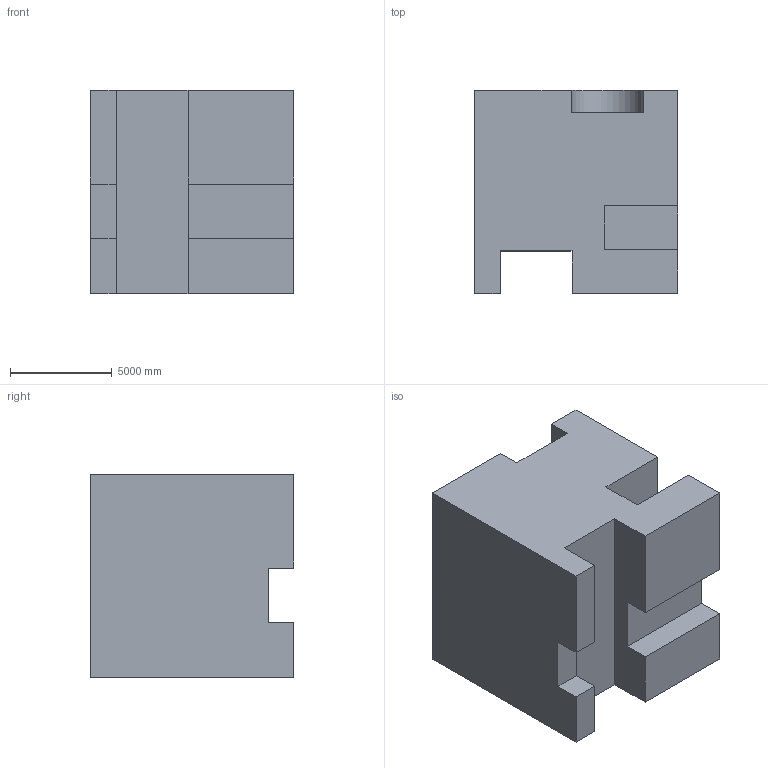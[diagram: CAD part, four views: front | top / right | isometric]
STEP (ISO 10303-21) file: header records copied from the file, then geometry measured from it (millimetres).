
FILE_DESCRIPTION (( 'STEP AP203' ), '1' );
FILE_NAME ('1396.STEP', '2022-08-26T10:15:26', ( 'user' ), ( '' ), 'SwSTEP 2.0', 'SolidWorks 2021', '' );
FILE_SCHEMA (( 'CONFIG_CONTROL_DESIGN' ));
Length unit declared in the file: centimetre
Products named in the file (1): 1396
Bounding box: 10000 x 10000 x 10000 mm (x, y, z)
Volume: 849275381172.3 mm3; surface area: 676600034.6 mm2
Topology: 1 solids, 1 shells, 26 faces, 72 edges, 48 vertices
Faces by surface type: plane 25, cylinder 1
Entity records: 895 total; most frequent: CARTESIAN_POINT 147, ORIENTED_EDGE 144, DIRECTION 128, EDGE_CURVE 72, LINE 70, VECTOR 70, VERTEX_POINT 48, AXIS2_PLACEMENT_3D 29
